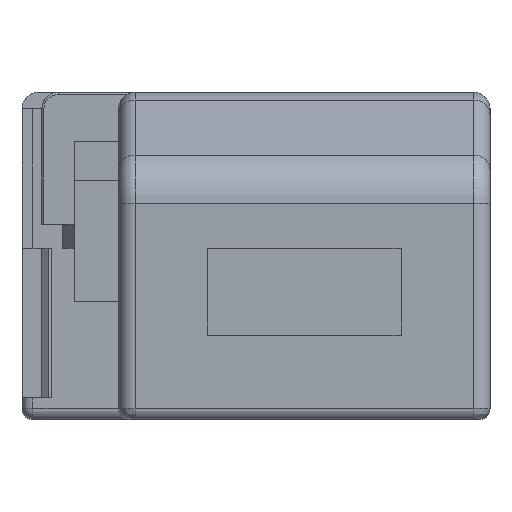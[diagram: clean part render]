
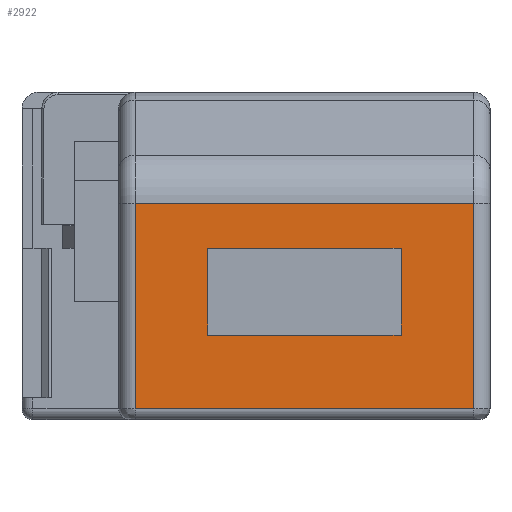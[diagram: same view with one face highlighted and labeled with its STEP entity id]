
A CAD part, left-side view. The second image highlights one B-rep face of the part: STEP entity #2922.
In plain terms, the highlighted planar face has unit normal (-1, 0, 0).
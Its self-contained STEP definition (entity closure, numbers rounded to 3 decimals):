
#1010=DIRECTION('',(0.,-1.,0.));
#1011=VECTOR('',#1010,7.9);
#1012=CARTESIAN_POINT('',(-15.,15.6,-8.8));
#1013=LINE('',#1012,#1011);
#1014=DIRECTION('',(0.,0.,1.));
#1015=VECTOR('',#1014,17.6);
#1016=CARTESIAN_POINT('',(-15.,7.7,-8.8));
#1017=LINE('',#1016,#1015);
#1018=DIRECTION('',(0.,1.,0.));
#1019=VECTOR('',#1018,7.9);
#1020=CARTESIAN_POINT('',(-15.,7.7,8.8));
#1021=LINE('',#1020,#1019);
#1022=DIRECTION('',(0.,0.,-1.));
#1023=VECTOR('',#1022,17.6);
#1024=CARTESIAN_POINT('',(-15.,15.6,8.8));
#1025=LINE('',#1024,#1023);
#1026=DIRECTION('',(0.,0.,1.));
#1027=VECTOR('',#1026,30.8);
#1028=CARTESIAN_POINT('',(-15.,1.,-15.4));
#1029=LINE('',#1028,#1027);
#1030=DIRECTION('',(0.,1.,0.));
#1031=VECTOR('',#1030,18.669);
#1032=CARTESIAN_POINT('',(-15.,1.,-15.4));
#1033=LINE('',#1032,#1031);
#1034=DIRECTION('',(0.,0.,1.));
#1035=VECTOR('',#1034,30.8);
#1036=CARTESIAN_POINT('',(-15.,19.669,-15.4));
#1037=LINE('',#1036,#1035);
#1038=DIRECTION('',(0.,-1.,0.));
#1039=VECTOR('',#1038,18.669);
#1040=CARTESIAN_POINT('',(-15.,19.669,15.4));
#1041=LINE('',#1040,#1039);
#1206=CARTESIAN_POINT('',(-15.,15.6,-8.8));
#1207=CARTESIAN_POINT('',(-15.,7.7,-8.8));
#1208=VERTEX_POINT('',#1206);
#1209=VERTEX_POINT('',#1207);
#1210=CARTESIAN_POINT('',(-15.,7.7,8.8));
#1211=VERTEX_POINT('',#1210);
#1212=CARTESIAN_POINT('',(-15.,15.6,8.8));
#1213=VERTEX_POINT('',#1212);
#1219=CARTESIAN_POINT('',(-15.,19.669,15.4));
#1221=VERTEX_POINT('',#1219);
#1252=CARTESIAN_POINT('',(-15.,19.669,-15.4));
#1253=VERTEX_POINT('',#1252);
#1442=CARTESIAN_POINT('',(-15.,1.,15.4));
#1443=VERTEX_POINT('',#1442);
#1444=CARTESIAN_POINT('',(-15.,1.,-15.4));
#1445=VERTEX_POINT('',#1444);
#2900=CARTESIAN_POINT('',(-15.,19.669,-16.9));
#2901=DIRECTION('',(-1.,0.,0.));
#2902=DIRECTION('',(0.,-1.,0.));
#2903=AXIS2_PLACEMENT_3D('',#2900,#2901,#2902);
#2904=PLANE('',#2903);
#2905=ORIENTED_EDGE('',*,*,#2892,.F.);
#2906=ORIENTED_EDGE('',*,*,#1611,.T.);
#2908=ORIENTED_EDGE('',*,*,#2907,.T.);
#2909=ORIENTED_EDGE('',*,*,#2855,.T.);
#2910=EDGE_LOOP('',(#2905,#2906,#2908,#2909));
#2911=FACE_OUTER_BOUND('',#2910,.F.);
#2913=ORIENTED_EDGE('',*,*,#2912,.T.);
#2915=ORIENTED_EDGE('',*,*,#2914,.T.);
#2917=ORIENTED_EDGE('',*,*,#2916,.T.);
#2919=ORIENTED_EDGE('',*,*,#2918,.T.);
#2920=EDGE_LOOP('',(#2913,#2915,#2917,#2919));
#2921=FACE_BOUND('',#2920,.F.);
#1611=EDGE_CURVE('',#1445,#1253,#1033,.T.);
#2855=EDGE_CURVE('',#1221,#1443,#1041,.T.);
#2892=EDGE_CURVE('',#1445,#1443,#1029,.T.);
#2907=EDGE_CURVE('',#1253,#1221,#1037,.T.);
#2912=EDGE_CURVE('',#1208,#1209,#1013,.T.);
#2914=EDGE_CURVE('',#1209,#1211,#1017,.T.);
#2916=EDGE_CURVE('',#1211,#1213,#1021,.T.);
#2918=EDGE_CURVE('',#1213,#1208,#1025,.T.);
#2922=ADVANCED_FACE('',(#2911,#2921),#2904,.T.);
